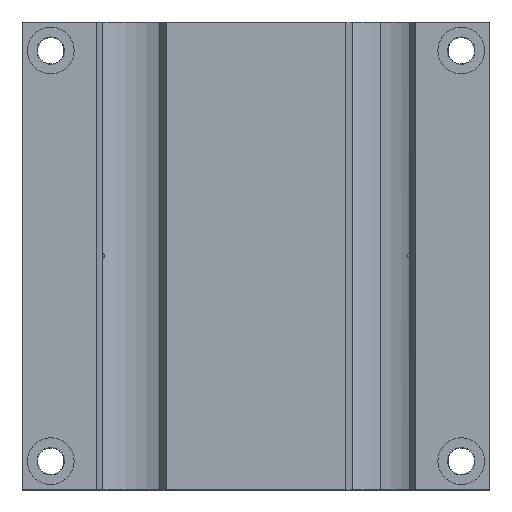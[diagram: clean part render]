
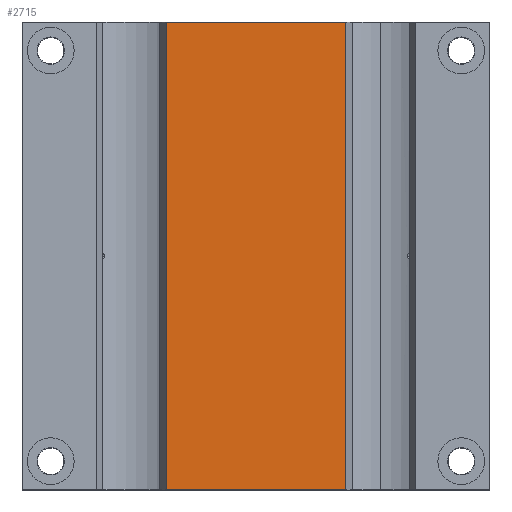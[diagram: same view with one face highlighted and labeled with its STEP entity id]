
A CAD part, top view. The second image highlights one B-rep face of the part: STEP entity #2715.
In plain terms, the highlighted planar face has unit normal (0, 0, 1).
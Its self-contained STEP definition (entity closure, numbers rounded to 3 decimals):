
#175 = PLANE ( 'NONE',  #2523 ) ;
#209 = LINE ( 'NONE', #2183, #597 ) ;
#458 = VERTEX_POINT ( 'NONE', #3053 ) ;
#597 = VECTOR ( 'NONE', #957, 1000. ) ;
#610 = ORIENTED_EDGE ( 'NONE', *, *, #941, .T. ) ;
#650 = CARTESIAN_POINT ( 'NONE',  ( 0., 0., 30. ) ) ;
#656 = EDGE_LOOP ( 'NONE', ( #2989, #997, #610, #813 ) ) ;
#771 = CARTESIAN_POINT ( 'NONE',  ( -34.555, -90., 30. ) ) ;
#786 = VECTOR ( 'NONE', #2396, 1000. ) ;
#811 = DIRECTION ( 'NONE',  ( 0., 1., 0. ) ) ;
#813 = ORIENTED_EDGE ( 'NONE', *, *, #1799, .F. ) ;
#895 = VECTOR ( 'NONE', #811, 1000. ) ;
#941 = EDGE_CURVE ( 'NONE', #458, #3075, #1286, .T. ) ;
#957 = DIRECTION ( 'NONE',  ( 0., 1., 0. ) ) ;
#997 = ORIENTED_EDGE ( 'NONE', *, *, #1123, .T. ) ;
#1123 = EDGE_CURVE ( 'NONE', #2175, #458, #209, .T. ) ;
#1241 = LINE ( 'NONE', #2963, #786 ) ;
#1264 = VERTEX_POINT ( 'NONE', #771 ) ;
#1286 = LINE ( 'NONE', #2972, #2023 ) ;
#1556 = CARTESIAN_POINT ( 'NONE',  ( 34.555, -90., 30. ) ) ;
#1687 = CARTESIAN_POINT ( 'NONE',  ( -34.555, 90., 30. ) ) ;
#1799 = EDGE_CURVE ( 'NONE', #1264, #3075, #2039, .T. ) ;
#2023 = VECTOR ( 'NONE', #2286, 1000. ) ;
#2039 = LINE ( 'NONE', #3006, #895 ) ;
#2175 = VERTEX_POINT ( 'NONE', #1556 ) ;
#2183 = CARTESIAN_POINT ( 'NONE',  ( 34.555, -90., 30. ) ) ;
#2286 = DIRECTION ( 'NONE',  ( -1., 0., 0. ) ) ;
#2396 = DIRECTION ( 'NONE',  ( 1., 0., 0. ) ) ;
#2499 = EDGE_CURVE ( 'NONE', #1264, #2175, #1241, .T. ) ;
#2523 = AXIS2_PLACEMENT_3D ( 'NONE', #650, #3056, #2877 ) ;
#2715 = ADVANCED_FACE ( 'NONE', ( #3066 ), #175, .T. ) ;
#2877 = DIRECTION ( 'NONE',  ( 1., 0., 0. ) ) ;
#2963 = CARTESIAN_POINT ( 'NONE',  ( -90., -90., 30. ) ) ;
#2972 = CARTESIAN_POINT ( 'NONE',  ( -90., 90., 30. ) ) ;
#2989 = ORIENTED_EDGE ( 'NONE', *, *, #2499, .T. ) ;
#3006 = CARTESIAN_POINT ( 'NONE',  ( -34.555, -90., 30. ) ) ;
#3053 = CARTESIAN_POINT ( 'NONE',  ( 34.555, 90., 30. ) ) ;
#3056 = DIRECTION ( 'NONE',  ( 0., 0., 1. ) ) ;
#3066 = FACE_OUTER_BOUND ( 'NONE', #656, .T. ) ;
#3075 = VERTEX_POINT ( 'NONE', #1687 ) ;
